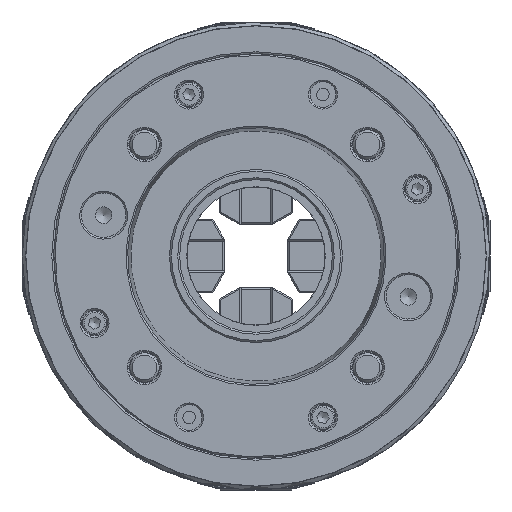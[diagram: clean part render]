
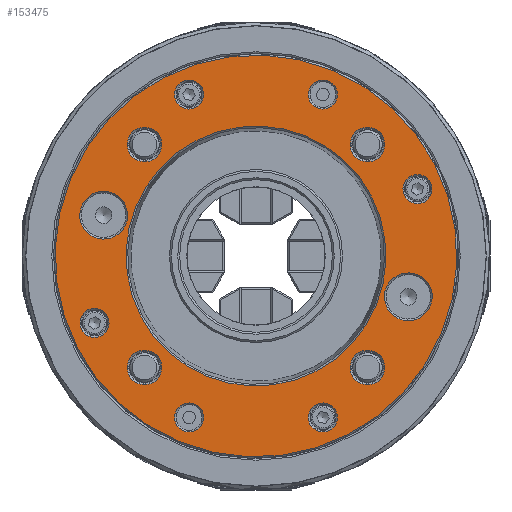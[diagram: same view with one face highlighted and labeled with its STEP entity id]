
A CAD part, front view. The second image highlights one B-rep face of the part: STEP entity #153475.
In plain terms, the highlighted planar face has unit normal (0, -1, 0).
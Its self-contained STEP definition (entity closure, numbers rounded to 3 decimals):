
#44543=PLANE('',#164571);
#45108=FACE_BOUND('',#59852,.T.);
#45109=FACE_BOUND('',#59853,.T.);
#45110=FACE_BOUND('',#59854,.T.);
#45111=FACE_BOUND('',#59855,.T.);
#45112=FACE_BOUND('',#59856,.T.);
#45113=FACE_BOUND('',#59857,.T.);
#45114=FACE_BOUND('',#59858,.T.);
#45115=FACE_BOUND('',#59859,.T.);
#45116=FACE_BOUND('',#59860,.T.);
#45117=FACE_BOUND('',#59861,.T.);
#45118=FACE_BOUND('',#59862,.T.);
#45119=FACE_BOUND('',#59863,.T.);
#45120=FACE_BOUND('',#59864,.T.);
#52217=FACE_OUTER_BOUND('',#59851,.T.);
#59851=EDGE_LOOP('',(#144292));
#59852=EDGE_LOOP('',(#144293));
#59853=EDGE_LOOP('',(#144294));
#59854=EDGE_LOOP('',(#144295));
#59855=EDGE_LOOP('',(#144296));
#59856=EDGE_LOOP('',(#144297));
#59857=EDGE_LOOP('',(#144298));
#59858=EDGE_LOOP('',(#144299));
#59859=EDGE_LOOP('',(#144300));
#59860=EDGE_LOOP('',(#144301));
#59861=EDGE_LOOP('',(#144302));
#59862=EDGE_LOOP('',(#144303));
#59863=EDGE_LOOP('',(#144304));
#59864=EDGE_LOOP('',(#144305));
#60953=CIRCLE('',#164540,109.2);
#60956=CIRCLE('',#164544,70.637);
#60957=CIRCLE('',#164546,9.4);
#60958=CIRCLE('',#164548,9.4);
#60959=CIRCLE('',#164550,9.4);
#60960=CIRCLE('',#164552,9.4);
#60961=CIRCLE('',#164554,7.9);
#60962=CIRCLE('',#164556,7.9);
#60963=CIRCLE('',#164558,7.9);
#60964=CIRCLE('',#164560,7.9);
#60965=CIRCLE('',#164562,7.9);
#60966=CIRCLE('',#164564,7.9);
#60967=CIRCLE('',#164566,13.);
#60968=CIRCLE('',#164568,13.);
#75709=VERTEX_POINT('',#255246);
#75712=VERTEX_POINT('',#255253);
#75713=VERTEX_POINT('',#255256);
#75714=VERTEX_POINT('',#255259);
#75715=VERTEX_POINT('',#255262);
#75716=VERTEX_POINT('',#255265);
#75717=VERTEX_POINT('',#255268);
#75718=VERTEX_POINT('',#255271);
#75719=VERTEX_POINT('',#255274);
#75720=VERTEX_POINT('',#255277);
#75721=VERTEX_POINT('',#255280);
#75722=VERTEX_POINT('',#255283);
#75723=VERTEX_POINT('',#255286);
#75724=VERTEX_POINT('',#255289);
#98604=EDGE_CURVE('',#75709,#75709,#60953,.T.);
#98607=EDGE_CURVE('',#75712,#75712,#60956,.T.);
#98608=EDGE_CURVE('',#75713,#75713,#60957,.T.);
#98609=EDGE_CURVE('',#75714,#75714,#60958,.T.);
#98610=EDGE_CURVE('',#75715,#75715,#60959,.T.);
#98611=EDGE_CURVE('',#75716,#75716,#60960,.T.);
#98612=EDGE_CURVE('',#75717,#75717,#60961,.T.);
#98613=EDGE_CURVE('',#75718,#75718,#60962,.T.);
#98614=EDGE_CURVE('',#75719,#75719,#60963,.T.);
#98615=EDGE_CURVE('',#75720,#75720,#60964,.T.);
#98616=EDGE_CURVE('',#75721,#75721,#60965,.T.);
#98617=EDGE_CURVE('',#75722,#75722,#60966,.T.);
#98618=EDGE_CURVE('',#75723,#75723,#60967,.T.);
#98619=EDGE_CURVE('',#75724,#75724,#60968,.T.);
#144292=ORIENTED_EDGE('',*,*,#98604,.T.);
#144293=ORIENTED_EDGE('',*,*,#98619,.T.);
#144294=ORIENTED_EDGE('',*,*,#98618,.T.);
#144295=ORIENTED_EDGE('',*,*,#98617,.T.);
#144296=ORIENTED_EDGE('',*,*,#98616,.T.);
#144297=ORIENTED_EDGE('',*,*,#98615,.T.);
#144298=ORIENTED_EDGE('',*,*,#98614,.T.);
#144299=ORIENTED_EDGE('',*,*,#98613,.T.);
#144300=ORIENTED_EDGE('',*,*,#98612,.T.);
#144301=ORIENTED_EDGE('',*,*,#98611,.T.);
#144302=ORIENTED_EDGE('',*,*,#98610,.T.);
#144303=ORIENTED_EDGE('',*,*,#98609,.T.);
#144304=ORIENTED_EDGE('',*,*,#98608,.T.);
#144305=ORIENTED_EDGE('',*,*,#98607,.T.);
#153475=ADVANCED_FACE('',(#52217,#45108,#45109,#45110,#45111,#45112,#45113,
#45114,#45115,#45116,#45117,#45118,#45119,#45120),#44543,.T.);
#164540=AXIS2_PLACEMENT_3D('',#255247,#204028,#204029);
#164544=AXIS2_PLACEMENT_3D('',#255254,#204036,#204037);
#164546=AXIS2_PLACEMENT_3D('',#255257,#204040,#204041);
#164548=AXIS2_PLACEMENT_3D('',#255260,#204044,#204045);
#164550=AXIS2_PLACEMENT_3D('',#255263,#204048,#204049);
#164552=AXIS2_PLACEMENT_3D('',#255266,#204052,#204053);
#164554=AXIS2_PLACEMENT_3D('',#255269,#204056,#204057);
#164556=AXIS2_PLACEMENT_3D('',#255272,#204060,#204061);
#164558=AXIS2_PLACEMENT_3D('',#255275,#204064,#204065);
#164560=AXIS2_PLACEMENT_3D('',#255278,#204068,#204069);
#164562=AXIS2_PLACEMENT_3D('',#255281,#204072,#204073);
#164564=AXIS2_PLACEMENT_3D('',#255284,#204076,#204077);
#164566=AXIS2_PLACEMENT_3D('',#255287,#204080,#204081);
#164568=AXIS2_PLACEMENT_3D('',#255290,#204084,#204085);
#164571=AXIS2_PLACEMENT_3D('',#255294,#204090,#204091);
#204028=DIRECTION('center_axis',(0.,-1.,0.));
#204029=DIRECTION('ref_axis',(0.924,0.,-0.383));
#204036=DIRECTION('center_axis',(0.,1.,0.));
#204037=DIRECTION('ref_axis',(0.924,0.,-0.383));
#204040=DIRECTION('center_axis',(0.,1.,0.));
#204041=DIRECTION('ref_axis',(0.924,0.,-0.383));
#204044=DIRECTION('center_axis',(0.,1.,0.));
#204045=DIRECTION('ref_axis',(-0.383,0.,
-0.924));
#204048=DIRECTION('center_axis',(0.,1.,0.));
#204049=DIRECTION('ref_axis',(-0.924,0.,0.383));
#204052=DIRECTION('center_axis',(0.,1.,0.));
#204053=DIRECTION('ref_axis',(0.383,0.,0.924));
#204056=DIRECTION('center_axis',(0.,1.,0.));
#204057=DIRECTION('ref_axis',(0.924,0.,-0.383));
#204060=DIRECTION('center_axis',(0.,1.,0.));
#204061=DIRECTION('ref_axis',(-0.924,0.,0.383));
#204064=DIRECTION('center_axis',(0.,1.,0.));
#204065=DIRECTION('ref_axis',(0.924,0.,-0.383));
#204068=DIRECTION('center_axis',(0.,1.,0.));
#204069=DIRECTION('ref_axis',(-0.383,0.,
-0.924));
#204072=DIRECTION('center_axis',(0.,1.,0.));
#204073=DIRECTION('ref_axis',(-0.924,0.,0.383));
#204076=DIRECTION('center_axis',(0.,1.,0.));
#204077=DIRECTION('ref_axis',(0.383,0.,0.924));
#204080=DIRECTION('center_axis',(0.,1.,0.));
#204081=DIRECTION('ref_axis',(0.924,0.,-0.383));
#204084=DIRECTION('center_axis',(0.,1.,0.));
#204085=DIRECTION('ref_axis',(-0.924,0.,0.383));
#204090=DIRECTION('center_axis',(0.,-1.,0.));
#204091=DIRECTION('ref_axis',(0.383,0.,0.924));
#255246=CARTESIAN_POINT('',(-100.888,-12.983,41.789));
#255247=CARTESIAN_POINT('Origin',(0.,-12.983,
0.));
#255253=CARTESIAN_POINT('',(-65.26,-12.983,27.032));
#255254=CARTESIAN_POINT('Origin',(0.,-12.983,
0.));
#255256=CARTESIAN_POINT('',(-69.284,-12.983,-57.002));
#255257=CARTESIAN_POINT('Origin',(-60.599,-12.983,-60.599));
#255259=CARTESIAN_POINT('',(-57.002,-12.983,69.284));
#255260=CARTESIAN_POINT('Origin',(-60.599,-12.983,60.599));
#255262=CARTESIAN_POINT('',(69.284,-12.983,57.002));
#255263=CARTESIAN_POINT('Origin',(60.599,-12.983,60.599));
#255265=CARTESIAN_POINT('',(57.002,-12.983,-69.284));
#255266=CARTESIAN_POINT('Origin',(60.599,-12.983,-60.599));
#255268=CARTESIAN_POINT('',(-43.654,-12.983,-84.745));
#255269=CARTESIAN_POINT('Origin',(-36.355,-12.983,-87.769));
#255271=CARTESIAN_POINT('',(43.654,-12.983,84.745));
#255272=CARTESIAN_POINT('Origin',(36.355,-12.983,87.769));
#255274=CARTESIAN_POINT('',(80.47,-12.983,39.378));
#255275=CARTESIAN_POINT('Origin',(87.769,-12.983,36.355));
#255277=CARTESIAN_POINT('',(39.378,-12.983,-80.47));
#255278=CARTESIAN_POINT('Origin',(36.355,-12.983,-87.769));
#255280=CARTESIAN_POINT('',(-80.47,-12.983,-39.378));
#255281=CARTESIAN_POINT('Origin',(-87.769,-12.983,-36.355));
#255283=CARTESIAN_POINT('',(-39.378,-12.983,80.47));
#255284=CARTESIAN_POINT('Origin',(-36.355,-12.983,87.769));
#255286=CARTESIAN_POINT('',(70.769,-12.983,-17.206));
#255287=CARTESIAN_POINT('Origin',(82.78,-12.983,-22.181));
#255289=CARTESIAN_POINT('',(-70.769,-12.983,17.206));
#255290=CARTESIAN_POINT('Origin',(-82.78,-12.983,22.181));
#255294=CARTESIAN_POINT('Origin',(-101.627,-12.983,42.095));
